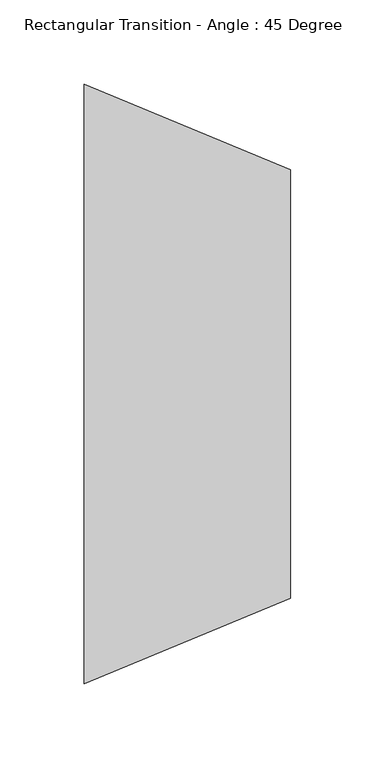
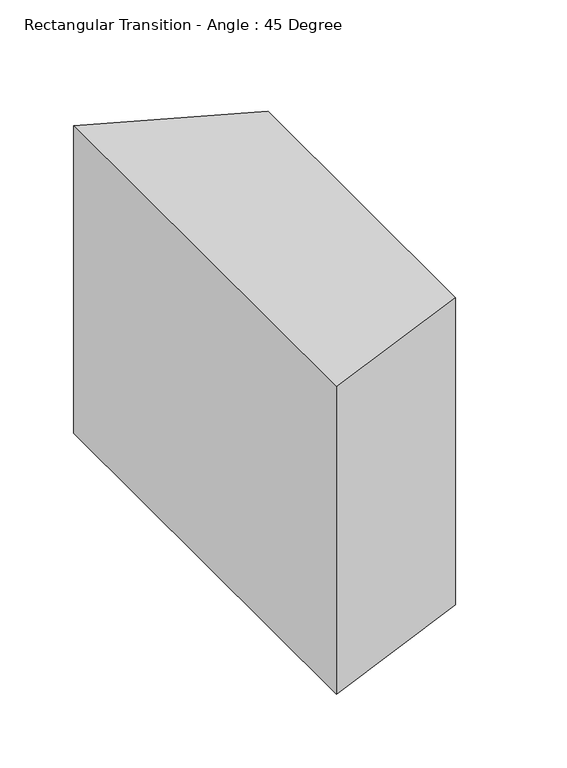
"""IFC4 building model written with IfcOpenShell, lengths in millimetres: duct fitting geometry, Rectangular Transition - Angle : 45 Degree."""

from ifc_helpers import new_model, si_unit, frame, origin, place, context, project, spatial, polyline, outline, extrude, source, transform, mapped, element, save


def rectangular_transition_angle_45_degree_612073dc(model_context):
    return source(origin(), model_context, "Body", "SweptSolid", [
        extrude(outline(polyline([(0.0, -177.8), (0.0, 177.8), (122.642049, 127.0), (122.642049, -127.0), (0.0, -177.8)])), frame((0.0, 0.0, -127.0), z_axis=(0.0, 0.0, 1.0), x_axis=(1.0, 0.0, 0.0)), (0.0, 0.0, 1.0), 254.0),
    ])


if __name__ == "__main__":
    model = new_model("IFC4")
    model_context = context("Model", 3, world=origin())
    ifc_project = project(units=[si_unit("LENGTHUNIT", "METRE", prefix="MILLI")], contexts=[model_context])
    site = spatial("IfcSite", under=ifc_project)
    building = spatial("IfcBuilding", under=site)
    placement = place(None, origin())
    rectangular_transition_angle_45_degree_shape = rectangular_transition_angle_45_degree_612073dc(model_context)
    element("IfcDuctFitting", 1, ObjectType="Rectangular Transition - Angle : 45 Degree", at=placement, inside=building, context=model_context, shape_type="MappedRepresentation", body=[
        mapped(rectangular_transition_angle_45_degree_shape, transform((0.0, 0.0, 0.0), x_axis=(1.0, 0.0, 0.0), y_axis=(0.0, 1.0, 0.0), z_axis=(0.0, 0.0, 1.0))),
    ])
    save(model, "model.ifc")
